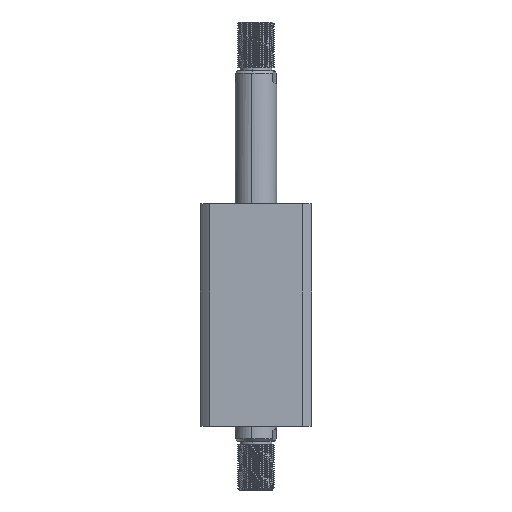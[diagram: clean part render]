
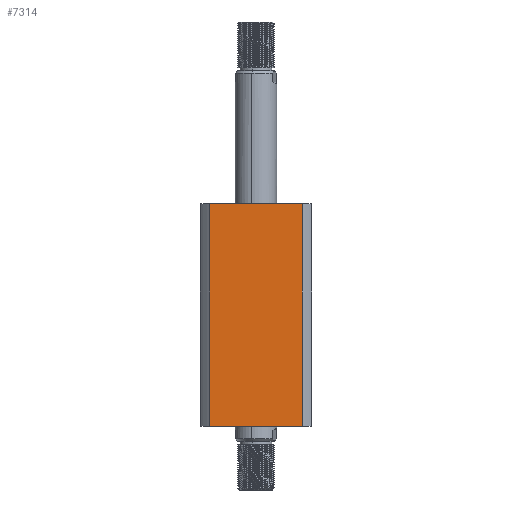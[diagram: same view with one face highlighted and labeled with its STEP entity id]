
A CAD part, left-side view. The second image highlights one B-rep face of the part: STEP entity #7314.
In plain terms, the highlighted planar face has unit normal (-1, 0, 0).
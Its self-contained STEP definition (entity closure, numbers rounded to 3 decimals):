
#470 = CARTESIAN_POINT ( 'NONE',  ( -40., 33.226, -80. ) ) ;
#802 = VERTEX_POINT ( 'NONE', #5887 ) ;
#982 = LINE ( 'NONE', #15788, #4399 ) ;
#2077 = LINE ( 'NONE', #5114, #16127 ) ;
#2194 = VERTEX_POINT ( 'NONE', #13241 ) ;
#3565 = PLANE ( 'NONE',  #12558 ) ;
#4020 = DIRECTION ( 'NONE',  ( 0., -1., 0. ) ) ;
#4374 = CARTESIAN_POINT ( 'NONE',  ( -40., -33.226, 80. ) ) ;
#4399 = VECTOR ( 'NONE', #4906, 1000. ) ;
#4906 = DIRECTION ( 'NONE',  ( 0., 0., -1. ) ) ;
#5114 = CARTESIAN_POINT ( 'NONE',  ( -40., 33.226, 80. ) ) ;
#5887 = CARTESIAN_POINT ( 'NONE',  ( -40., -33.226, -80. ) ) ;
#6044 = EDGE_LOOP ( 'NONE', ( #14044, #15437, #15622, #12694 ) ) ;
#6294 = LINE ( 'NONE', #9527, #16730 ) ;
#6478 = DIRECTION ( 'NONE',  ( 0., 0., -1. ) ) ;
#6527 = FACE_OUTER_BOUND ( 'NONE', #6044, .T. ) ;
#6915 = VERTEX_POINT ( 'NONE', #4374 ) ;
#7226 = EDGE_CURVE ( 'NONE', #2194, #9689, #2077, .T. ) ;
#7314 = ADVANCED_FACE ( 'NONE', ( #6527 ), #3565, .F. ) ;
#7639 = DIRECTION ( 'NONE',  ( 1., 0., 0. ) ) ;
#9527 = CARTESIAN_POINT ( 'NONE',  ( -40., 33.226, 80. ) ) ;
#9689 = VERTEX_POINT ( 'NONE', #470 ) ;
#11000 = EDGE_CURVE ( 'NONE', #9689, #802, #15238, .T. ) ;
#11648 = DIRECTION ( 'NONE',  ( 0., 1., 0. ) ) ;
#12466 = VECTOR ( 'NONE', #15337, 1000. ) ;
#12552 = EDGE_CURVE ( 'NONE', #2194, #6915, #6294, .T. ) ;
#12558 = AXIS2_PLACEMENT_3D ( 'NONE', #13083, #7639, #11648 ) ;
#12694 = ORIENTED_EDGE ( 'NONE', *, *, #7226, .T. ) ;
#13083 = CARTESIAN_POINT ( 'NONE',  ( -40., 33.226, 80. ) ) ;
#13241 = CARTESIAN_POINT ( 'NONE',  ( -40., 33.226, 80. ) ) ;
#13740 = CARTESIAN_POINT ( 'NONE',  ( -40., 33.226, -80. ) ) ;
#13773 = EDGE_CURVE ( 'NONE', #6915, #802, #982, .T. ) ;
#14044 = ORIENTED_EDGE ( 'NONE', *, *, #11000, .T. ) ;
#15238 = LINE ( 'NONE', #13740, #12466 ) ;
#15337 = DIRECTION ( 'NONE',  ( 0., -1., 0. ) ) ;
#15437 = ORIENTED_EDGE ( 'NONE', *, *, #13773, .F. ) ;
#15622 = ORIENTED_EDGE ( 'NONE', *, *, #12552, .F. ) ;
#15788 = CARTESIAN_POINT ( 'NONE',  ( -40., -33.226, 80. ) ) ;
#16127 = VECTOR ( 'NONE', #6478, 1000. ) ;
#16730 = VECTOR ( 'NONE', #4020, 1000. ) ;
